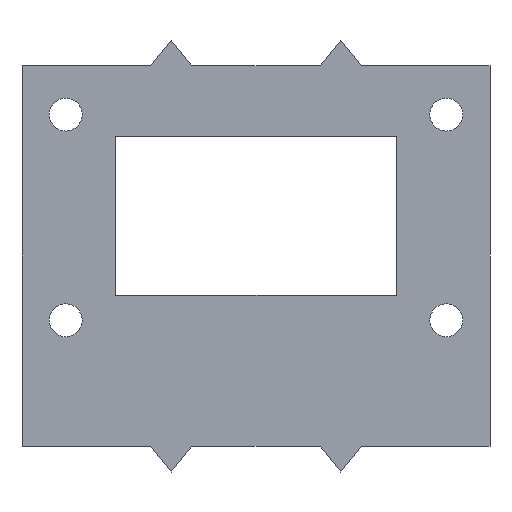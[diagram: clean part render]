
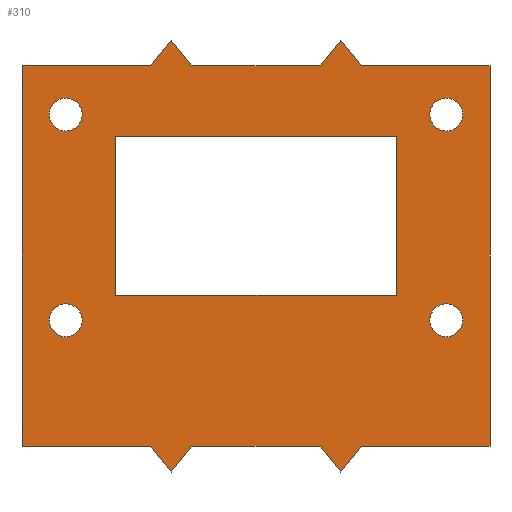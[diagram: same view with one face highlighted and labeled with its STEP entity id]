
A CAD part, front view. The second image highlights one B-rep face of the part: STEP entity #310.
In plain terms, the highlighted planar face has unit normal (0, -1, 0).
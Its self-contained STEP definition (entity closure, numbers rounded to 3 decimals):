
#24 = VERTEX_POINT('',#25);
#25 = CARTESIAN_POINT('',(12.5,-4.,37.));
#31 = EDGE_CURVE('',#24,#32,#34,.T.);
#32 = VERTEX_POINT('',#33);
#33 = CARTESIAN_POINT('',(0.,-4.,37.));
#34 = LINE('',#35,#36);
#35 = CARTESIAN_POINT('',(12.5,-4.,37.));
#36 = VECTOR('',#37,1.);
#37 = DIRECTION('',(-1.,0.,0.));
#62 = EDGE_CURVE('',#24,#63,#65,.T.);
#63 = VERTEX_POINT('',#64);
#64 = CARTESIAN_POINT('',(14.5,-4.,39.5));
#65 = LINE('',#66,#67);
#66 = CARTESIAN_POINT('',(12.5,-4.,37.));
#67 = VECTOR('',#68,1.);
#68 = DIRECTION('',(0.625,0.,0.781));
#93 = EDGE_CURVE('',#32,#94,#96,.T.);
#94 = VERTEX_POINT('',#95);
#95 = CARTESIAN_POINT('',(0.,-4.,0.));
#96 = LINE('',#97,#98);
#97 = CARTESIAN_POINT('',(0.,-4.,37.));
#98 = VECTOR('',#99,1.);
#99 = DIRECTION('',(0.,0.,-1.));
#310 = ADVANCED_FACE('',(#311,#418,#429,#440,#474,#485),#496,.F.);
#311 = FACE_BOUND('',#312,.F.);
#312 = EDGE_LOOP('',(#313,#314,#315,#323,#331,#339,#347,#355,#363,#371,
    #379,#387,#395,#403,#411,#417));
#313 = ORIENTED_EDGE('',*,*,#31,.F.);
#314 = ORIENTED_EDGE('',*,*,#62,.T.);
#315 = ORIENTED_EDGE('',*,*,#316,.T.);
#316 = EDGE_CURVE('',#63,#317,#319,.T.);
#317 = VERTEX_POINT('',#318);
#318 = CARTESIAN_POINT('',(16.5,-4.,37.));
#319 = LINE('',#320,#321);
#320 = CARTESIAN_POINT('',(14.5,-4.,39.5));
#321 = VECTOR('',#322,1.);
#322 = DIRECTION('',(0.625,0.,-0.781));
#323 = ORIENTED_EDGE('',*,*,#324,.F.);
#324 = EDGE_CURVE('',#325,#317,#327,.T.);
#325 = VERTEX_POINT('',#326);
#326 = CARTESIAN_POINT('',(29.,-4.,37.));
#327 = LINE('',#328,#329);
#328 = CARTESIAN_POINT('',(29.,-4.,37.));
#329 = VECTOR('',#330,1.);
#330 = DIRECTION('',(-1.,0.,0.));
#331 = ORIENTED_EDGE('',*,*,#332,.T.);
#332 = EDGE_CURVE('',#325,#333,#335,.T.);
#333 = VERTEX_POINT('',#334);
#334 = CARTESIAN_POINT('',(31.,-4.,39.5));
#335 = LINE('',#336,#337);
#336 = CARTESIAN_POINT('',(29.,-4.,37.));
#337 = VECTOR('',#338,1.);
#338 = DIRECTION('',(0.625,0.,0.781));
#339 = ORIENTED_EDGE('',*,*,#340,.T.);
#340 = EDGE_CURVE('',#333,#341,#343,.T.);
#341 = VERTEX_POINT('',#342);
#342 = CARTESIAN_POINT('',(33.,-4.,37.));
#343 = LINE('',#344,#345);
#344 = CARTESIAN_POINT('',(31.,-4.,39.5));
#345 = VECTOR('',#346,1.);
#346 = DIRECTION('',(0.625,0.,-0.781));
#347 = ORIENTED_EDGE('',*,*,#348,.F.);
#348 = EDGE_CURVE('',#349,#341,#351,.T.);
#349 = VERTEX_POINT('',#350);
#350 = CARTESIAN_POINT('',(45.5,-4.,37.));
#351 = LINE('',#352,#353);
#352 = CARTESIAN_POINT('',(45.5,-4.,37.));
#353 = VECTOR('',#354,1.);
#354 = DIRECTION('',(-1.,0.,0.));
#355 = ORIENTED_EDGE('',*,*,#356,.F.);
#356 = EDGE_CURVE('',#357,#349,#359,.T.);
#357 = VERTEX_POINT('',#358);
#358 = CARTESIAN_POINT('',(45.5,-4.,0.));
#359 = LINE('',#360,#361);
#360 = CARTESIAN_POINT('',(45.5,-4.,0.));
#361 = VECTOR('',#362,1.);
#362 = DIRECTION('',(0.,0.,1.));
#363 = ORIENTED_EDGE('',*,*,#364,.F.);
#364 = EDGE_CURVE('',#365,#357,#367,.T.);
#365 = VERTEX_POINT('',#366);
#366 = CARTESIAN_POINT('',(33.,-4.,0.));
#367 = LINE('',#368,#369);
#368 = CARTESIAN_POINT('',(33.,-4.,0.));
#369 = VECTOR('',#370,1.);
#370 = DIRECTION('',(1.,0.,0.));
#371 = ORIENTED_EDGE('',*,*,#372,.F.);
#372 = EDGE_CURVE('',#373,#365,#375,.T.);
#373 = VERTEX_POINT('',#374);
#374 = CARTESIAN_POINT('',(31.,-4.,-2.5));
#375 = LINE('',#376,#377);
#376 = CARTESIAN_POINT('',(31.,-4.,-2.5));
#377 = VECTOR('',#378,1.);
#378 = DIRECTION('',(0.625,0.,0.781));
#379 = ORIENTED_EDGE('',*,*,#380,.F.);
#380 = EDGE_CURVE('',#381,#373,#383,.T.);
#381 = VERTEX_POINT('',#382);
#382 = CARTESIAN_POINT('',(29.,-4.,0.));
#383 = LINE('',#384,#385);
#384 = CARTESIAN_POINT('',(29.,-4.,0.));
#385 = VECTOR('',#386,1.);
#386 = DIRECTION('',(0.625,0.,-0.781));
#387 = ORIENTED_EDGE('',*,*,#388,.F.);
#388 = EDGE_CURVE('',#389,#381,#391,.T.);
#389 = VERTEX_POINT('',#390);
#390 = CARTESIAN_POINT('',(16.5,-4.,0.));
#391 = LINE('',#392,#393);
#392 = CARTESIAN_POINT('',(16.5,-4.,0.));
#393 = VECTOR('',#394,1.);
#394 = DIRECTION('',(1.,0.,0.));
#395 = ORIENTED_EDGE('',*,*,#396,.F.);
#396 = EDGE_CURVE('',#397,#389,#399,.T.);
#397 = VERTEX_POINT('',#398);
#398 = CARTESIAN_POINT('',(14.5,-4.,-2.5));
#399 = LINE('',#400,#401);
#400 = CARTESIAN_POINT('',(14.5,-4.,-2.5));
#401 = VECTOR('',#402,1.);
#402 = DIRECTION('',(0.625,0.,0.781));
#403 = ORIENTED_EDGE('',*,*,#404,.F.);
#404 = EDGE_CURVE('',#405,#397,#407,.T.);
#405 = VERTEX_POINT('',#406);
#406 = CARTESIAN_POINT('',(12.5,-4.,0.));
#407 = LINE('',#408,#409);
#408 = CARTESIAN_POINT('',(12.5,-4.,0.));
#409 = VECTOR('',#410,1.);
#410 = DIRECTION('',(0.625,0.,-0.781));
#411 = ORIENTED_EDGE('',*,*,#412,.F.);
#412 = EDGE_CURVE('',#94,#405,#413,.T.);
#413 = LINE('',#414,#415);
#414 = CARTESIAN_POINT('',(0.,-4.,0.));
#415 = VECTOR('',#416,1.);
#416 = DIRECTION('',(1.,0.,0.));
#417 = ORIENTED_EDGE('',*,*,#93,.F.);
#418 = FACE_BOUND('',#419,.F.);
#419 = EDGE_LOOP('',(#420));
#420 = ORIENTED_EDGE('',*,*,#421,.T.);
#421 = EDGE_CURVE('',#422,#422,#424,.T.);
#422 = VERTEX_POINT('',#423);
#423 = CARTESIAN_POINT('',(5.85,-4.,12.25));
#424 = CIRCLE('',#425,1.6);
#425 = AXIS2_PLACEMENT_3D('',#426,#427,#428);
#426 = CARTESIAN_POINT('',(4.25,-4.,12.25));
#427 = DIRECTION('',(0.,-1.,0.));
#428 = DIRECTION('',(1.,0.,0.));
#429 = FACE_BOUND('',#430,.F.);
#430 = EDGE_LOOP('',(#431));
#431 = ORIENTED_EDGE('',*,*,#432,.T.);
#432 = EDGE_CURVE('',#433,#433,#435,.T.);
#433 = VERTEX_POINT('',#434);
#434 = CARTESIAN_POINT('',(5.85,-4.,32.25));
#435 = CIRCLE('',#436,1.6);
#436 = AXIS2_PLACEMENT_3D('',#437,#438,#439);
#437 = CARTESIAN_POINT('',(4.25,-4.,32.25));
#438 = DIRECTION('',(0.,-1.,0.));
#439 = DIRECTION('',(1.,0.,0.));
#440 = FACE_BOUND('',#441,.F.);
#441 = EDGE_LOOP('',(#442,#452,#460,#468));
#442 = ORIENTED_EDGE('',*,*,#443,.F.);
#443 = EDGE_CURVE('',#444,#446,#448,.T.);
#444 = VERTEX_POINT('',#445);
#445 = CARTESIAN_POINT('',(9.1,-4.,30.14));
#446 = VERTEX_POINT('',#447);
#447 = CARTESIAN_POINT('',(36.4,-4.,30.14));
#448 = LINE('',#449,#450);
#449 = CARTESIAN_POINT('',(9.1,-4.,30.14));
#450 = VECTOR('',#451,1.);
#451 = DIRECTION('',(1.,0.,0.));
#452 = ORIENTED_EDGE('',*,*,#453,.F.);
#453 = EDGE_CURVE('',#454,#444,#456,.T.);
#454 = VERTEX_POINT('',#455);
#455 = CARTESIAN_POINT('',(9.1,-4.,14.66));
#456 = LINE('',#457,#458);
#457 = CARTESIAN_POINT('',(9.1,-4.,14.66));
#458 = VECTOR('',#459,1.);
#459 = DIRECTION('',(0.,0.,1.));
#460 = ORIENTED_EDGE('',*,*,#461,.F.);
#461 = EDGE_CURVE('',#462,#454,#464,.T.);
#462 = VERTEX_POINT('',#463);
#463 = CARTESIAN_POINT('',(36.4,-4.,14.66));
#464 = LINE('',#465,#466);
#465 = CARTESIAN_POINT('',(36.4,-4.,14.66));
#466 = VECTOR('',#467,1.);
#467 = DIRECTION('',(-1.,0.,0.));
#468 = ORIENTED_EDGE('',*,*,#469,.F.);
#469 = EDGE_CURVE('',#446,#462,#470,.T.);
#470 = LINE('',#471,#472);
#471 = CARTESIAN_POINT('',(36.4,-4.,30.14));
#472 = VECTOR('',#473,1.);
#473 = DIRECTION('',(0.,0.,-1.));
#474 = FACE_BOUND('',#475,.F.);
#475 = EDGE_LOOP('',(#476));
#476 = ORIENTED_EDGE('',*,*,#477,.T.);
#477 = EDGE_CURVE('',#478,#478,#480,.T.);
#478 = VERTEX_POINT('',#479);
#479 = CARTESIAN_POINT('',(42.85,-4.,12.25));
#480 = CIRCLE('',#481,1.6);
#481 = AXIS2_PLACEMENT_3D('',#482,#483,#484);
#482 = CARTESIAN_POINT('',(41.25,-4.,12.25));
#483 = DIRECTION('',(0.,-1.,0.));
#484 = DIRECTION('',(1.,0.,0.));
#485 = FACE_BOUND('',#486,.F.);
#486 = EDGE_LOOP('',(#487));
#487 = ORIENTED_EDGE('',*,*,#488,.T.);
#488 = EDGE_CURVE('',#489,#489,#491,.T.);
#489 = VERTEX_POINT('',#490);
#490 = CARTESIAN_POINT('',(42.85,-4.,32.25));
#491 = CIRCLE('',#492,1.6);
#492 = AXIS2_PLACEMENT_3D('',#493,#494,#495);
#493 = CARTESIAN_POINT('',(41.25,-4.,32.25));
#494 = DIRECTION('',(0.,-1.,0.));
#495 = DIRECTION('',(1.,0.,0.));
#496 = PLANE('',#497);
#497 = AXIS2_PLACEMENT_3D('',#498,#499,#500);
#498 = CARTESIAN_POINT('',(22.75,-4.,18.5));
#499 = DIRECTION('',(0.,1.,0.));
#500 = DIRECTION('',(0.,0.,1.));
